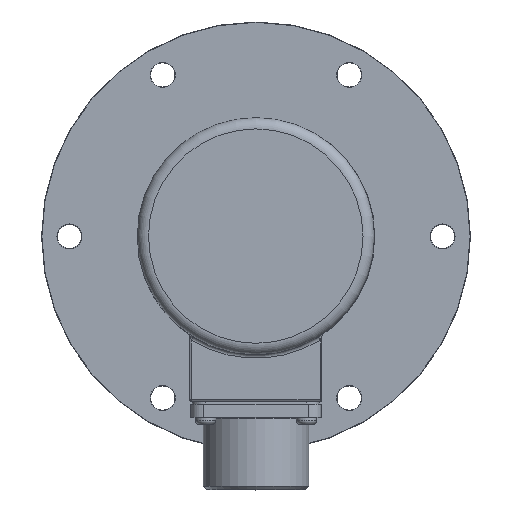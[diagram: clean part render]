
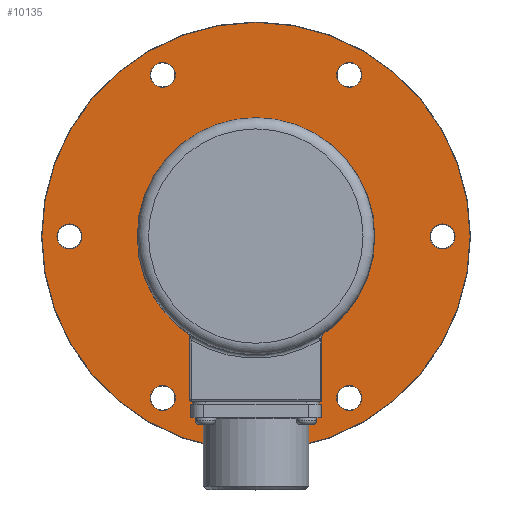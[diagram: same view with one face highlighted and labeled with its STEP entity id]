
A CAD part, top view. The second image highlights one B-rep face of the part: STEP entity #10135.
In plain terms, the highlighted planar face has unit normal (0, 0, 1).
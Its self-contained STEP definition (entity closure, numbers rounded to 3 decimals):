
#10088 = VERTEX_POINT('',#10089);
#10089 = CARTESIAN_POINT('',(31.85,0.,11.));
#10098 = EDGE_CURVE('',#10088,#10088,#10099,.T.);
#10099 = CIRCLE('',#10100,31.85);
#10100 = AXIS2_PLACEMENT_3D('',#10101,#10102,#10103);
#10101 = CARTESIAN_POINT('',(0.,0.,11.));
#10102 = DIRECTION('',(0.,0.,1.));
#10103 = DIRECTION('',(1.,0.,-0.));
#10135 = ADVANCED_FACE('',(#10136,#10139,#10150,#10161,#10172,#10183,
    #10194,#10205),#10216,.T.);
#10136 = FACE_BOUND('',#10137,.T.);
#10137 = EDGE_LOOP('',(#10138));
#10138 = ORIENTED_EDGE('',*,*,#10098,.F.);
#10139 = FACE_BOUND('',#10140,.T.);
#10140 = EDGE_LOOP('',(#10141));
#10141 = ORIENTED_EDGE('',*,*,#10142,.F.);
#10142 = EDGE_CURVE('',#10143,#10143,#10145,.T.);
#10143 = VERTEX_POINT('',#10144);
#10144 = CARTESIAN_POINT('',(23.325,-40.4,11.));
#10145 = CIRCLE('',#10146,3.35);
#10146 = AXIS2_PLACEMENT_3D('',#10147,#10148,#10149);
#10147 = CARTESIAN_POINT('',(25.,-43.301,11.));
#10148 = DIRECTION('',(0.,0.,1.));
#10149 = DIRECTION('',(-0.5,0.866,0.));
#10150 = FACE_BOUND('',#10151,.T.);
#10151 = EDGE_LOOP('',(#10152));
#10152 = ORIENTED_EDGE('',*,*,#10153,.F.);
#10153 = EDGE_CURVE('',#10154,#10154,#10156,.T.);
#10154 = VERTEX_POINT('',#10155);
#10155 = CARTESIAN_POINT('',(46.65,0.,11.));
#10156 = CIRCLE('',#10157,3.35);
#10157 = AXIS2_PLACEMENT_3D('',#10158,#10159,#10160);
#10158 = CARTESIAN_POINT('',(50.,0.,11.));
#10159 = DIRECTION('',(0.,0.,1.));
#10160 = DIRECTION('',(-1.,0.,0.));
#10161 = FACE_BOUND('',#10162,.T.);
#10162 = EDGE_LOOP('',(#10163));
#10163 = ORIENTED_EDGE('',*,*,#10164,.F.);
#10164 = EDGE_CURVE('',#10165,#10165,#10167,.T.);
#10165 = VERTEX_POINT('',#10166);
#10166 = CARTESIAN_POINT('',(23.325,40.4,11.));
#10167 = CIRCLE('',#10168,3.35);
#10168 = AXIS2_PLACEMENT_3D('',#10169,#10170,#10171);
#10169 = CARTESIAN_POINT('',(25.,43.301,11.));
#10170 = DIRECTION('',(0.,0.,1.));
#10171 = DIRECTION('',(-0.5,-0.866,0.));
#10172 = FACE_BOUND('',#10173,.T.);
#10173 = EDGE_LOOP('',(#10174));
#10174 = ORIENTED_EDGE('',*,*,#10175,.F.);
#10175 = EDGE_CURVE('',#10176,#10176,#10178,.T.);
#10176 = VERTEX_POINT('',#10177);
#10177 = CARTESIAN_POINT('',(-23.325,40.4,11.));
#10178 = CIRCLE('',#10179,3.35);
#10179 = AXIS2_PLACEMENT_3D('',#10180,#10181,#10182);
#10180 = CARTESIAN_POINT('',(-25.,43.301,11.));
#10181 = DIRECTION('',(-0.,0.,1.));
#10182 = DIRECTION('',(0.5,-0.866,0.));
#10183 = FACE_BOUND('',#10184,.T.);
#10184 = EDGE_LOOP('',(#10185));
#10185 = ORIENTED_EDGE('',*,*,#10186,.F.);
#10186 = EDGE_CURVE('',#10187,#10187,#10189,.T.);
#10187 = VERTEX_POINT('',#10188);
#10188 = CARTESIAN_POINT('',(-46.65,0.,11.));
#10189 = CIRCLE('',#10190,3.35);
#10190 = AXIS2_PLACEMENT_3D('',#10191,#10192,#10193);
#10191 = CARTESIAN_POINT('',(-50.,0.,11.));
#10192 = DIRECTION('',(0.,0.,1.));
#10193 = DIRECTION('',(1.,0.,0.));
#10194 = FACE_BOUND('',#10195,.T.);
#10195 = EDGE_LOOP('',(#10196));
#10196 = ORIENTED_EDGE('',*,*,#10197,.F.);
#10197 = EDGE_CURVE('',#10198,#10198,#10200,.T.);
#10198 = VERTEX_POINT('',#10199);
#10199 = CARTESIAN_POINT('',(-23.325,-40.4,11.));
#10200 = CIRCLE('',#10201,3.35);
#10201 = AXIS2_PLACEMENT_3D('',#10202,#10203,#10204);
#10202 = CARTESIAN_POINT('',(-25.,-43.301,11.));
#10203 = DIRECTION('',(0.,-0.,1.));
#10204 = DIRECTION('',(0.5,0.866,0.));
#10205 = FACE_BOUND('',#10206,.T.);
#10206 = EDGE_LOOP('',(#10207));
#10207 = ORIENTED_EDGE('',*,*,#10208,.T.);
#10208 = EDGE_CURVE('',#10209,#10209,#10211,.T.);
#10209 = VERTEX_POINT('',#10210);
#10210 = CARTESIAN_POINT('',(57.4,0.,11.));
#10211 = CIRCLE('',#10212,57.4);
#10212 = AXIS2_PLACEMENT_3D('',#10213,#10214,#10215);
#10213 = CARTESIAN_POINT('',(0.,0.,11.));
#10214 = DIRECTION('',(0.,0.,1.));
#10215 = DIRECTION('',(1.,0.,0.));
#10216 = PLANE('',#10217);
#10217 = AXIS2_PLACEMENT_3D('',#10218,#10219,#10220);
#10218 = CARTESIAN_POINT('',(0.,0.,11.));
#10219 = DIRECTION('',(0.,0.,1.));
#10220 = DIRECTION('',(1.,0.,0.));
